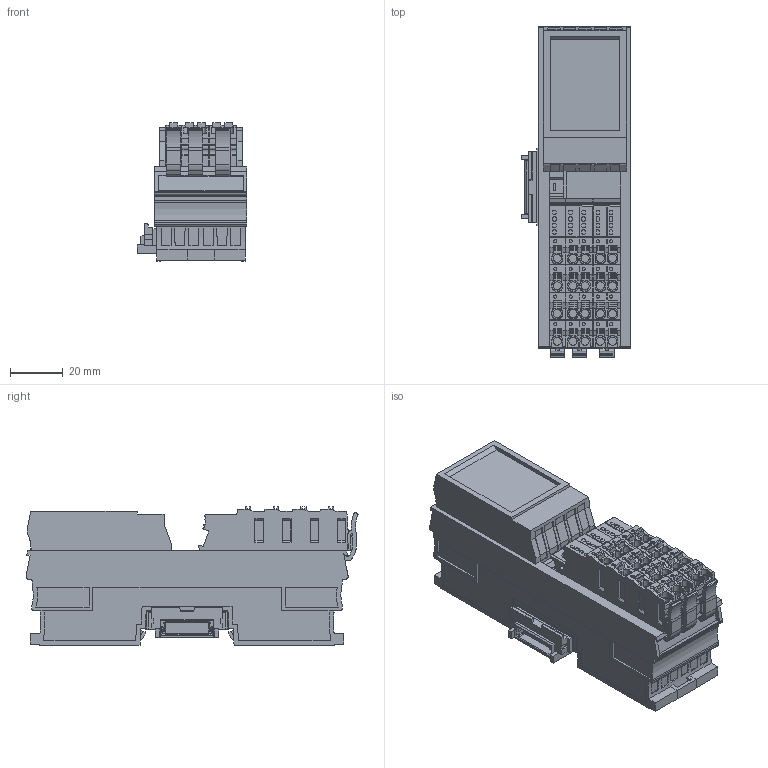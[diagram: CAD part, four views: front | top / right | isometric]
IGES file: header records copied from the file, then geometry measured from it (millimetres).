
Start section:  PTC IGES file: cu_rem-11115.igs
Global section: file name: cu_rem-11115.igs; native system: Creo Parametric by PTC Inc.; preprocessor: 2015380; author: dkendric; organization: Unknown; date: 20170511.101928; units: inch
Bounding box: 41.8 x 126.17 x 52.6 mm (x, y, z)
Surface area: 46901.4 mm2 (no closed solid volume)
Topology: 0 solids, 0 shells, 2330 faces, 13198 edges, 13198 vertices
Faces by surface type: bspline 1897, revolution 433
